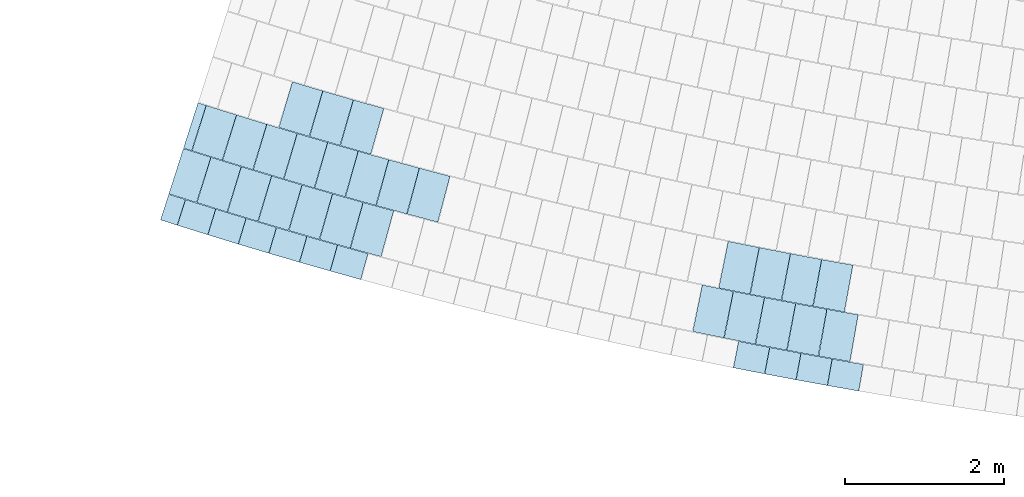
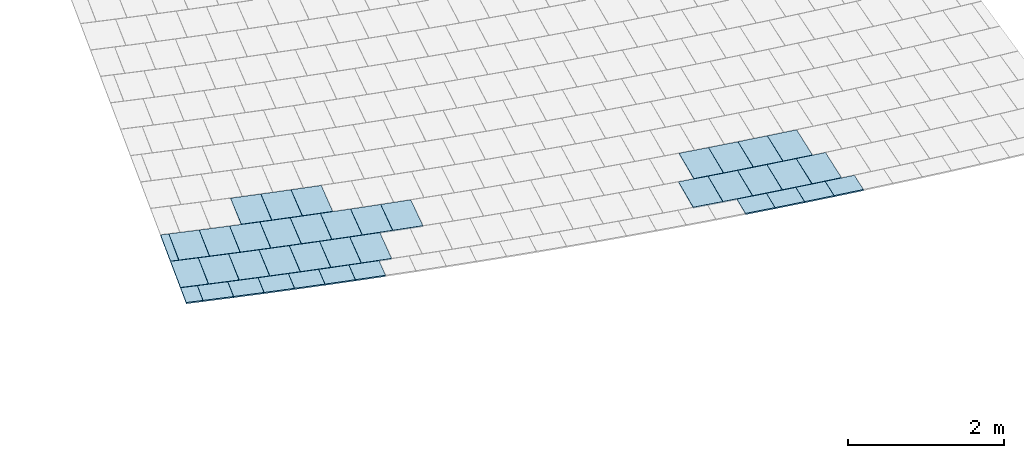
# One storey, part 16 of 438: 39 slabs.
"""IFC2X3 building model written with IfcOpenShell, lengths in millimetres."""

from ifc_helpers import new_model, entity, si_unit, converted_unit, derived_unit, direction, frame, frame_2d, origin, place, context, subcontext, project, spatial, polyline, rectangle, outline, extrude, material, layer, layer_set, layer_usage, type_object, element, save


model = new_model("IFC2X3")

# Units and contexts
model_context = context("Model", 3, precision=0.01, world=origin(), true_north=direction((6.123031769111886e-17, 1.0)))
body_context = subcontext(model_context, "Body", "Model", "MODEL_VIEW")
ifc_project = project(units=[si_unit("LENGTHUNIT", "METRE", prefix="MILLI"), si_unit("AREAUNIT", "SQUARE_METRE"), si_unit("VOLUMEUNIT", "CUBIC_METRE"), converted_unit("PLANEANGLEUNIT", "DEGREE", entity("IfcRatioMeasure", 0.017453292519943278), si_unit("PLANEANGLEUNIT", "RADIAN"), dimensions=[0, 0, 0, 0, 0, 0, 0]), si_unit("MASSUNIT", "GRAM", prefix="KILO"), derived_unit("MASSDENSITYUNIT", [(si_unit("MASSUNIT", "GRAM", prefix="KILO"), 1), (si_unit("LENGTHUNIT", "METRE"), -3)]), derived_unit("MOMENTOFINERTIAUNIT", [(si_unit("LENGTHUNIT", "METRE"), 4)]), si_unit("TIMEUNIT", "SECOND"), si_unit("FREQUENCYUNIT", "HERTZ"), si_unit("THERMODYNAMICTEMPERATUREUNIT", "DEGREE_CELSIUS"), derived_unit("THERMALTRANSMITTANCEUNIT", [(si_unit("MASSUNIT", "GRAM", prefix="KILO"), 1), (si_unit("THERMODYNAMICTEMPERATUREUNIT", "KELVIN"), -1), (si_unit("TIMEUNIT", "SECOND"), -3)]), derived_unit("THERMALCONDUCTANCEUNIT", [(si_unit("MASSUNIT", "GRAM", prefix="KILO"), 1), (si_unit("LENGTHUNIT", "METRE"), 1), (si_unit("THERMODYNAMICTEMPERATUREUNIT", "KELVIN"), -1), (si_unit("TIMEUNIT", "SECOND"), -3)]), derived_unit("VOLUMETRICFLOWRATEUNIT", [(si_unit("LENGTHUNIT", "METRE"), 3), (si_unit("TIMEUNIT", "SECOND"), -1)]), derived_unit("MASSFLOWRATEUNIT", [(si_unit("MASSUNIT", "GRAM", prefix="KILO"), 1), (si_unit("TIMEUNIT", "SECOND"), -1)]), derived_unit("ROTATIONALFREQUENCYUNIT", [(si_unit("TIMEUNIT", "SECOND"), -1)]), si_unit("ELECTRICCURRENTUNIT", "AMPERE"), si_unit("ELECTRICVOLTAGEUNIT", "VOLT"), si_unit("POWERUNIT", "WATT"), converted_unit("FORCEUNIT", "KIP", entity("IfcRatioMeasure", 2.088543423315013e-05), si_unit("FORCEUNIT", "NEWTON"), dimensions=[1, 1, -2, 0, 0, 0, 0]), si_unit("ILLUMINANCEUNIT", "LUX"), si_unit("LUMINOUSFLUXUNIT", "LUMEN"), si_unit("LUMINOUSINTENSITYUNIT", "CANDELA"), derived_unit("USERDEFINED", [(si_unit("MASSUNIT", "GRAM", prefix="KILO"), -1), (si_unit("LENGTHUNIT", "METRE"), -2), (si_unit("TIMEUNIT", "SECOND"), 3), (si_unit("LUMINOUSFLUXUNIT", "LUMEN"), 1)]), derived_unit("USERDEFINED", [(si_unit("MASSUNIT", "GRAM", prefix="KILO"), 1), (si_unit("LENGTHUNIT", "METRE"), 3), (si_unit("TIMEUNIT", "SECOND"), -3), (si_unit("ELECTRICCURRENTUNIT", "AMPERE"), -2)]), derived_unit("USERDEFINED", [(si_unit("LENGTHUNIT", "METRE"), 2), (si_unit("TIMEUNIT", "SECOND"), -2)]), derived_unit("SOUNDPOWERUNIT", [(si_unit("MASSUNIT", "GRAM", prefix="KILO"), 1), (si_unit("LENGTHUNIT", "METRE"), 2), (si_unit("TIMEUNIT", "SECOND"), -3)]), derived_unit("SOUNDPRESSUREUNIT", [(si_unit("MASSUNIT", "GRAM", prefix="KILO"), 1), (si_unit("LENGTHUNIT", "METRE"), -1), (si_unit("TIMEUNIT", "SECOND"), -2)]), derived_unit("LINEARVELOCITYUNIT", [(si_unit("LENGTHUNIT", "METRE"), 1), (si_unit("TIMEUNIT", "SECOND"), -1)]), si_unit("PRESSUREUNIT", "PASCAL"), derived_unit("USERDEFINED", [(si_unit("LENGTHUNIT", "METRE"), -2), (si_unit("MASSUNIT", "GRAM", prefix="KILO"), 1), (si_unit("TIMEUNIT", "SECOND"), -2)]), derived_unit("LINEARFORCEUNIT", [(si_unit("MASSUNIT", "GRAM", prefix="KILO"), 1), (si_unit("LENGTHUNIT", "METRE"), 1), (si_unit("TIMEUNIT", "SECOND"), -2), (si_unit("LENGTHUNIT", "METRE"), -1)]), derived_unit("PLANARFORCEUNIT", [(si_unit("MASSUNIT", "GRAM", prefix="KILO"), 1), (si_unit("LENGTHUNIT", "METRE"), 1), (si_unit("TIMEUNIT", "SECOND"), -2), (si_unit("LENGTHUNIT", "METRE"), -2)]), derived_unit("SPECIFICHEATCAPACITYUNIT", [(si_unit("LENGTHUNIT", "METRE"), 2), (si_unit("TIMEUNIT", "SECOND"), -2), (si_unit("THERMODYNAMICTEMPERATUREUNIT", "KELVIN"), -1)]), derived_unit("VAPORPERMEABILITYUNIT", [(si_unit("TIMEUNIT", "SECOND"), 1), (si_unit("LENGTHUNIT", "METRE"), -1)]), derived_unit("DYNAMICVISCOSITYUNIT", [(si_unit("MASSUNIT", "GRAM", prefix="KILO"), 1), (si_unit("LENGTHUNIT", "METRE"), -1), (si_unit("TIMEUNIT", "SECOND"), -1)]), derived_unit("THERMALEXPANSIONCOEFFICIENTUNIT", [(si_unit("THERMODYNAMICTEMPERATUREUNIT", "KELVIN"), -1)])], contexts=[model_context])

# Site, building, storey
site_placement = place(None, frame((0.0, 0.0, 0.0), z_axis=(0.0, 0.0, 1.0), x_axis=(0.8191520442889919, 0.5735764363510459, 0.0)))
site = spatial("IfcSite", under=ifc_project, at=site_placement, Name="Default", CompositionType="ELEMENT")
building_placement = place(site_placement, origin())
building = spatial("IfcBuilding", under=site, at=building_placement, CompositionType="ELEMENT")
storey_placement = place(building_placement, origin())
storey = spatial("IfcBuildingStorey", under=building, at=storey_placement, Name="PLAN", CompositionType="ELEMENT", Elevation=0.0)

# Slabs
ifc_material = material(Name="Paint-01")
ifc_layer = layer(ifc_material, 20.00000000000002)
ifc_layer_set = layer_set([ifc_layer], Name="Floor:Slab-179:1000")
ifc_layer_usage = layer_usage(ifc_layer_set, "AXIS3", "POSITIVE", 0.0)
slab_type = type_object("IfcSlabType", Name="Floor:Slab-179:1000", PredefinedType="FLOOR", material=ifc_layer_set)
slab_1_placement = place(storey_placement, origin())
element("IfcSlab", 1, at=slab_1_placement, inside=storey, type_object=slab_type, material=ifc_layer_usage, Name="Floor:Slab-179:1000", ObjectType="Floor:Slab-179:1000", PredefinedType="FLOOR", context=body_context, shape_type="SweptSolid", body=[
    extrude(outline(polyline([(-200.000001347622, -299.9999986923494), (200.00000453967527, -299.9999986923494), (200.00000134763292, 299.99999869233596), (-200.00000453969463, 299.99999869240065), (-200.000001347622, -299.9999986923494)])), frame((-89695.173439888, -108101.68065019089, 520.0), z_axis=(0.0, 0.0, -1.0), x_axis=(0.6309567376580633, -0.7758180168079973, 0.0)), (0.0, 0.0, 1.0), 20.000000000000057),
])
slab_2_placement = place(storey_placement, origin())
element("IfcSlab", 2, at=slab_2_placement, inside=storey, type_object=slab_type, material=ifc_layer_usage, Name="Floor:Slab-179:1000", ObjectType="Floor:Slab-179:1000", PredefinedType="FLOOR", context=body_context, shape_type="SweptSolid", body=[
    extrude(outline(polyline([(-200.0000013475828, -299.9999986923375), (200.00000453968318, -299.9999986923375), (200.0000013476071, 299.9999986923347), (-200.0000045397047, 299.99999869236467), (-200.0000013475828, -299.9999986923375)])), frame((-90198.37641179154, -107474.90255385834, 520.0), z_axis=(0.0, 0.0, -1.0), x_axis=(0.6211079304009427, -0.7837250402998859, 0.0)), (0.0, 0.0, 1.0), 20.000000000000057),
])
slab_3_placement = place(storey_placement, origin())
element("IfcSlab", 3, at=slab_3_placement, inside=storey, type_object=slab_type, material=ifc_layer_usage, Name="Floor:Slab-179:1000", ObjectType="Floor:Slab-179:1000", PredefinedType="FLOOR", context=body_context, shape_type="SweptSolid", body=[
    extrude(outline(polyline([(-200.00000134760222, -299.99999869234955), (200.0000045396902, -299.9999986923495), (200.00000134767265, 299.9999986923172), (-200.00000453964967, 299.99999869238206), (-200.00000134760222, -299.99999869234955)])), frame((-89947.76447131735, -107789.08604941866, 520.0), z_axis=(0.0, 0.0, -1.0), x_axis=(0.6260448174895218, -0.7797870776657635, 0.0)), (0.0, 0.0, 1.0), 20.000000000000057),
])
slab_4_placement = place(storey_placement, origin())
element("IfcSlab", 4, at=slab_4_placement, inside=storey, type_object=slab_type, material=ifc_layer_usage, Name="Floor:Slab-179:1000", ObjectType="Floor:Slab-179:1000", PredefinedType="FLOOR", context=body_context, shape_type="SweptSolid", body=[
    extrude(outline(polyline([(-200.00000134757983, -299.99999869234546), (200.00000453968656, -299.9999986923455), (200.00000134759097, 299.9999986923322), (-200.00000453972, 299.9999986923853), (-200.00000134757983, -299.99999869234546)])), frame((-89501.10370635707, -109285.79751246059, 520.0), z_axis=(0.0, 0.0, -1.0), x_axis=(0.6434462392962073, -0.7654913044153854, 0.0)), (0.0, 0.0, 1.0), 20.000000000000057),
])
slab_5_placement = place(storey_placement, origin())
element("IfcSlab", 5, at=slab_5_placement, inside=storey, type_object=slab_type, material=ifc_layer_usage, Name="Floor:Slab-179:1000", ObjectType="Floor:Slab-179:1000", PredefinedType="FLOOR", context=body_context, shape_type="SweptSolid", body=[
    extrude(outline(polyline([(-200.00000134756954, -299.9999986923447), (200.0000045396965, -299.9999986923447), (200.00000134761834, 299.99999869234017), (-200.00000453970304, 299.99999869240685), (-200.00000134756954, -299.9999986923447)])), frame((-89758.72500339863, -108977.35869517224, 520.0), z_axis=(0.0, 0.0, -1.0), x_axis=(0.6386452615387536, -0.7695012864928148, 0.0)), (0.0, 0.0, 1.0), 20.000000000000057),
])
slab_6_placement = place(storey_placement, origin())
element("IfcSlab", 6, at=slab_6_placement, inside=storey, type_object=slab_type, material=ifc_layer_usage, Name="Floor:Slab-179:1000", ObjectType="Floor:Slab-179:1000", PredefinedType="FLOOR", context=body_context, shape_type="SweptSolid", body=[
    extrude(outline(polyline([(-200.00000134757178, -299.999998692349), (200.0000045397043, -299.9999986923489), (200.00000134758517, 299.99999869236), (-200.00000453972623, 299.99999869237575), (-200.00000134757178, -299.999998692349)])), frame((-90014.41187832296, -108667.31441012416, 520.0), z_axis=(0.0, 0.0, -1.0), x_axis=(0.6338192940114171, -0.7734811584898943, 0.0)), (0.0, 0.0, 1.0), 20.000000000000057),
])
slab_7_placement = place(storey_placement, origin())
element("IfcSlab", 7, at=slab_7_placement, inside=storey, type_object=slab_type, material=ifc_layer_usage, Name="Floor:Slab-179:1000", ObjectType="Floor:Slab-179:1000", PredefinedType="FLOOR", context=body_context, shape_type="SweptSolid", body=[
    extrude(outline(polyline([(-200.000001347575, -299.9999986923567), (200.00000453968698, -299.99999869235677), (200.00000134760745, 299.9999986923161), (-200.00000453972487, 299.99999869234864), (-200.000001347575, -299.9999986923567)])), frame((-90519.94241846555, -108042.45802641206, 520.0), z_axis=(0.0, 0.0, -1.0), x_axis=(0.6240931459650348, -0.7813499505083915, 0.0)), (0.0, 0.0, 1.0), 20.000000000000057),
])
slab_8_placement = place(storey_placement, origin())
element("IfcSlab", 8, at=slab_8_placement, inside=storey, type_object=slab_type, material=ifc_layer_usage, Name="Floor:Slab-179:1000", ObjectType="Floor:Slab-179:1000", PredefinedType="FLOOR", context=body_context, shape_type="SweptSolid", body=[
    extrude(outline(polyline([(-200.00000134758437, -299.9999986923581), (200.00000453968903, -299.9999986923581), (200.00000134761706, 299.9999986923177), (-200.00000453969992, 299.99999869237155), (-200.00000134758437, -299.9999986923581)])), frame((-90268.15432627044, -108355.67678914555, 520.0), z_axis=(0.0, 0.0, -1.0), x_axis=(0.6289685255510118, -0.7774307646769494, 0.0)), (0.0, 0.0, 1.0), 20.000000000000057),
])
slab_9_placement = place(storey_placement, origin())
element("IfcSlab", 9, at=slab_9_placement, inside=storey, type_object=slab_type, material=ifc_layer_usage, Name="Floor:Slab-179:1000", ObjectType="Floor:Slab-179:1000", PredefinedType="FLOOR", context=body_context, shape_type="SweptSolid", body=[
    extrude(outline(polyline([(-200.00000134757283, -299.9999986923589), (200.00000453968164, -299.9999986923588), (200.00000134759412, 299.9999986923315), (-200.00000453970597, 299.9999986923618), (-200.00000134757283, -299.9999986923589)])), frame((-91017.61620324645, -107411.32616124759, 520.0), z_axis=(0.0, 0.0, -1.0), x_axis=(0.6142693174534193, -0.7890964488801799, 0.0)), (0.0, 0.0, 1.0), 20.000000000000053),
])
slab_10_placement = place(storey_placement, origin())
element("IfcSlab", 10, at=slab_10_placement, inside=storey, type_object=slab_type, material=ifc_layer_usage, Name="Floor:Slab-179:1000", ObjectType="Floor:Slab-179:1000", PredefinedType="FLOOR", context=body_context, shape_type="SweptSolid", body=[
    extrude(outline(polyline([(-200.0000013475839, -299.99999869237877), (200.00000453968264, -299.9999986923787), (200.0000013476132, 299.99999869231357), (-200.00000453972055, 299.99999869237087), (-200.0000013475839, -299.99999869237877)])), frame((-90769.76630260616, -107727.67037796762, 520.0), z_axis=(0.0, 0.0, -1.0), x_axis=(0.6191933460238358, -0.7852385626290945, 0.0)), (0.0, 0.0, 1.0), 20.000000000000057),
])
slab_11_placement = place(storey_placement, origin())
element("IfcSlab", 11, at=slab_11_placement, inside=storey, type_object=slab_type, material=ifc_layer_usage, Name="Floor:Slab-179:1000", ObjectType="Floor:Slab-179:1000", PredefinedType="FLOOR", context=body_context, shape_type="SweptSolid", body=[
    extrude(outline(polyline([(-54.47639367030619, -299.99999869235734), (54.04723241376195, -299.99999869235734), (54.04722922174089, 299.9999986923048), (-53.618067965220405, 299.9999986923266), (-54.47639367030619, -299.99999869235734)])), frame((-91419.14887644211, -106890.30100781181, 520.0), z_axis=(0.0, 0.0, -1.0), x_axis=(0.6043493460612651, -0.7967194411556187, 0.0)), (0.0, 0.0, 1.0), 20.000000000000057),
])
slab_12_placement = place(storey_placement, origin())
element("IfcSlab", 12, at=slab_12_placement, inside=storey, type_object=slab_type, material=ifc_layer_usage, Name="Floor:Slab-179:1000", ObjectType="Floor:Slab-179:1000", PredefinedType="FLOOR", context=body_context, shape_type="SweptSolid", body=[
    extrude(outline(polyline([(-200.0000013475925, -299.99999869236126), (200.0000045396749, -299.9999986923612), (200.00000134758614, 299.99999869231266), (-200.00000453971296, 299.9999986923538), (-200.0000013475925, -299.99999869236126)])), frame((-91263.48242218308, -107093.4377545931, 520.0), z_axis=(0.0, 0.0, -1.0), x_axis=(0.6093212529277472, -0.7929234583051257, 0.0)), (0.0, 0.0, 1.0), 20.000000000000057),
])
slab_13_placement = place(storey_placement, origin())
element("IfcSlab", 13, at=slab_13_placement, inside=storey, type_object=slab_type, material=ifc_layer_usage, Name="Floor:Slab-179:1000", ObjectType="Floor:Slab-179:1000", PredefinedType="FLOOR", context=body_context, shape_type="SweptSolid", body=[
    extrude(outline(polyline([(-299.99999762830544, -200.00000294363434), (300.0, -200.00000294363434), (299.99999762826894, 200.00000294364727), (-300.0, 200.000002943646), (-299.99999762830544, -200.00000294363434)])), frame((-86542.53397466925, -112569.25771188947, 520.0), z_axis=(0.0, 0.0, -1.0), x_axis=(-0.7194399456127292, -0.6945546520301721, 0.0)), (0.0, 0.0, 1.0), 19.99999999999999),
])
slab_14_placement = place(storey_placement, origin())
element("IfcSlab", 14, at=slab_14_placement, inside=storey, type_object=slab_type, material=ifc_layer_usage, Name="Floor:Slab-179:1000", ObjectType="Floor:Slab-179:1000", PredefinedType="FLOOR", context=body_context, shape_type="SweptSolid", body=[
    extrude(outline(polyline([(-299.99999762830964, -200.00000294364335), (300.0, -200.00000294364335), (299.99999762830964, 200.00000294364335), (-300.0, 200.00000294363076), (-299.99999762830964, -200.00000294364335)])), frame((-86820.75223172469, -112279.26143925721, 520.0), z_axis=(0.0, 0.0, -1.0), x_axis=(-0.72377052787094, -0.6900407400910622, 0.0)), (0.0, 0.0, 1.0), 20.000000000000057),
])
slab_15_placement = place(storey_placement, origin())
element("IfcSlab", 15, at=slab_15_placement, inside=storey, type_object=slab_type, material=ifc_layer_usage, Name="Floor:Slab-179:1000", ObjectType="Floor:Slab-179:1000", PredefinedType="FLOOR", context=body_context, shape_type="SweptSolid", body=[
    extrude(outline(polyline([(-299.9999976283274, -200.0000029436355), (300.0, -200.0000029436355), (299.99999762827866, 200.00000294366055), (-300.0, 200.0000029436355), (-299.9999976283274, -200.0000029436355)])), frame((-86262.5071429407, -112857.50796811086, 520.0), z_axis=(0.0, 0.0, -1.0), x_axis=(-0.7150812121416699, -0.6990413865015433, 0.0)), (0.0, 0.0, 1.0), 20.000000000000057),
])
slab_16_placement = place(storey_placement, origin())
element("IfcSlab", 16, at=slab_16_placement, inside=storey, type_object=slab_type, material=ifc_layer_usage, Name="Floor:Slab-179:1000", ObjectType="Floor:Slab-179:1000", PredefinedType="FLOOR", context=body_context, shape_type="SweptSolid", body=[
    extrude(outline(polyline([(-299.9999976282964, -200.00000294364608), (300.0, -200.00000294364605), (299.9999976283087, 200.00000294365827), (-300.0, 200.00000294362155), (-299.9999976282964, -200.00000294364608)])), frame((-85980.68269380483, -113144.00092887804, 520.0), z_axis=(0.0, 0.0, -1.0), x_axis=(-0.7106944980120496, -0.7035007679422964, 0.0)), (0.0, 0.0, 1.0), 19.99999999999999),
])
slab_17_placement = place(storey_placement, origin())
element("IfcSlab", 17, at=slab_17_placement, inside=storey, type_object=slab_type, material=ifc_layer_usage, Name="Floor:Slab-179:1000", ObjectType="Floor:Slab-179:1000", PredefinedType="FLOOR", context=body_context, shape_type="SweptSolid", body=[
    extrude(outline(polyline([(-200.00000134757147, -299.999998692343), (200.00000453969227, -299.999998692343), (200.00000134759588, 299.9999986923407), (-200.0000045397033, 299.99999869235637), (-200.00000134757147, -299.999998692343)])), frame((-90332.99761945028, -109232.38652519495, 520.0), z_axis=(0.0, 0.0, -1.0), x_axis=(0.6366197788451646, -0.7711778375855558, 0.0)), (0.0, 0.0, 1.0), 20.000000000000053),
])
slab_18_placement = place(storey_placement, origin())
element("IfcSlab", 18, at=slab_18_placement, inside=storey, type_object=slab_type, material=ifc_layer_usage, Name="Floor:Slab-179:1000", ObjectType="Floor:Slab-179:1000", PredefinedType="FLOOR", context=body_context, shape_type="SweptSolid", body=[
    extrude(outline(polyline([(-200.00000134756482, -299.9999986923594), (200.00000453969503, -299.99999869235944), (200.0000013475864, 299.99999869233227), (-200.00000453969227, 299.99999869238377), (-200.00000134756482, -299.9999986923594)])), frame((-91091.80367080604, -108295.59501314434, 520.0), z_axis=(0.0, 0.0, -1.0), x_axis=(0.6221742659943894, -0.7828787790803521, 0.0)), (0.0, 0.0, 1.0), 20.000000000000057),
])
slab_19_placement = place(storey_placement, origin())
element("IfcSlab", 19, at=slab_19_placement, inside=storey, type_object=slab_type, material=ifc_layer_usage, Name="Floor:Slab-179:1000", ObjectType="Floor:Slab-179:1000", PredefinedType="FLOOR", context=body_context, shape_type="SweptSolid", body=[
    extrude(outline(polyline([(-200.0000013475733, -299.9999986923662), (200.00000453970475, -299.9999986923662), (200.00000134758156, 299.99999869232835), (-200.00000453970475, 299.9999986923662), (-200.0000013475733, -299.9999986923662)])), frame((-90840.80496525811, -108609.42423335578, 520.0), z_axis=(0.0, 0.0, -1.0), x_axis=(0.6270135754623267, -0.779008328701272, 0.0)), (0.0, 0.0, 1.0), 20.000000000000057),
])
slab_20_placement = place(storey_placement, origin())
element("IfcSlab", 20, at=slab_20_placement, inside=storey, type_object=slab_type, material=ifc_layer_usage, Name="Floor:Slab-179:1000", ObjectType="Floor:Slab-179:1000", PredefinedType="FLOOR", context=body_context, shape_type="SweptSolid", body=[
    extrude(outline(polyline([(-200.00000134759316, -299.9999986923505), (200.00000453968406, -299.99999869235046), (200.00000134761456, 299.9999986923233), (-200.00000453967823, 299.9999986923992), (-200.00000134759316, -299.9999986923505)])), frame((-91340.8528557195, -107980.21645785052, 520.0), z_axis=(0.0, 0.0, -1.0), x_axis=(0.6173110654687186, -0.7867191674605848, 0.0)), (0.0, 0.0, 1.0), 19.999999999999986),
])
slab_21_placement = place(storey_placement, origin())
element("IfcSlab", 21, at=slab_21_placement, inside=storey, type_object=slab_type, material=ifc_layer_usage, Name="Floor:Slab-179:1000", ObjectType="Floor:Slab-179:1000", PredefinedType="FLOOR", context=body_context, shape_type="SweptSolid", body=[
    extrude(outline(polyline([(-200.00000134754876, -299.9999986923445), (200.00000453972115, -299.99999869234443), (200.0000013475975, 299.99999869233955), (-200.0000045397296, 299.99999869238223), (-200.00000134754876, -299.9999986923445)])), frame((-90587.86637725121, -108921.69206766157, 520.0), z_axis=(0.0, 0.0, -1.0), x_axis=(0.6318288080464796, -0.7751079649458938, 0.0)), (0.0, 0.0, 1.0), 20.000000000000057),
])
slab_22_placement = place(storey_placement, origin())
element("IfcSlab", 22, at=slab_22_placement, inside=storey, type_object=slab_type, material=ifc_layer_usage, Name="Floor:Slab-179:1000", ObjectType="Floor:Slab-179:1000", PredefinedType="FLOOR", context=body_context, shape_type="SweptSolid", body=[
    extrude(outline(polyline([(-200.00000134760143, -299.99999869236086), (200.00000453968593, -299.99999869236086), (200.00000134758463, 299.99999869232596), (-200.00000453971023, 299.99999869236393), (-200.00000134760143, -299.99999869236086)])), frame((-91587.94295668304, -107663.30067779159, 520.0), z_axis=(0.0, 0.0, -1.0), x_axis=(0.6124241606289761, -0.7905293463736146, 0.0)), (0.0, 0.0, 1.0), 19.999999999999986),
])
slab_23_placement = place(storey_placement, origin())
element("IfcSlab", 23, at=slab_23_placement, inside=storey, type_object=slab_type, material=ifc_layer_usage, Name="Floor:Slab-179:1000", ObjectType="Floor:Slab-179:1000", PredefinedType="FLOOR", context=body_context, shape_type="SweptSolid", body=[
    extrude(outline(polyline([(-181.83036841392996, -299.9999986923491), (182.59454611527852, -299.99999869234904), (182.59454292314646, 299.9999986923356), (-183.35872062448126, 299.9999986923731), (-181.83036841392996, -299.9999986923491)])), frame((-91822.49043048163, -107358.68515753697, 520.0), z_axis=(0.0, 0.0, -1.0), x_axis=(0.6075137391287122, -0.7943091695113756, 0.0)), (0.0, 0.0, 1.0), 19.999999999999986),
])
slab_24_placement = place(storey_placement, origin())
element("IfcSlab", 24, at=slab_24_placement, inside=storey, type_object=slab_type, material=ifc_layer_usage, Name="Floor:Slab-179:1000", ObjectType="Floor:Slab-179:1000", PredefinedType="FLOOR", context=body_context, shape_type="SweptSolid", body=[
    extrude(outline(polyline([(-299.999997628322, -200.00000294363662), (300.0, -200.00000294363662), (299.99999762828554, 200.00000294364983), (-300.0, 200.00000294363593), (-299.999997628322, -200.00000294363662)])), frame((-87404.90136982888, -112542.81464813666, 520.0), z_axis=(0.0, 0.0, -1.0), x_axis=(-0.7260260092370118, -0.6876672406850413, 0.0)), (0.0, 0.0, 1.0), 20.000000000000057),
])
slab_25_placement = place(storey_placement, origin())
element("IfcSlab", 25, at=slab_25_placement, inside=storey, type_object=slab_type, material=ifc_layer_usage, Name="Floor:Slab-179:1000", ObjectType="Floor:Slab-179:1000", PredefinedType="FLOOR", context=body_context, shape_type="SweptSolid", body=[
    extrude(outline(polyline([(-299.9999976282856, -200.00000294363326), (300.0, -200.00000294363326), (299.9999976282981, 200.00000294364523), (-300.0, 200.00000294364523), (-299.9999976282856, -200.00000294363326)])), frame((-87127.6547594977, -112833.71574250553, 520.0), z_axis=(0.0, 0.0, -1.0), x_axis=(-0.7217508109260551, -0.6921529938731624, 0.0)), (0.0, 0.0, 1.0), 20.000000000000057),
])
slab_26_placement = place(storey_placement, origin())
element("IfcSlab", 26, at=slab_26_placement, inside=storey, type_object=slab_type, material=ifc_layer_usage, Name="Floor:Slab-179:1000", ObjectType="Floor:Slab-179:1000", PredefinedType="FLOOR", context=body_context, shape_type="SweptSolid", body=[
    extrude(outline(polyline([(-299.9999976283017, -200.00000294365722), (300.0, -200.0000029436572), (299.99999762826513, 200.00000294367), (-300.0, 200.00000294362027), (-299.9999976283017, -200.00000294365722)])), frame((-86848.61084908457, -113122.89324112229, 520.0), z_axis=(0.0, 0.0, -1.0), x_axis=(-0.7174478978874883, -0.6966121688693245, 0.0)), (0.0, 0.0, 1.0), 19.99999999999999),
])
slab_27_placement = place(storey_placement, origin())
element("IfcSlab", 27, at=slab_27_placement, inside=storey, type_object=slab_type, material=ifc_layer_usage, Name="Floor:Slab-179:1000", ObjectType="Floor:Slab-179:1000", PredefinedType="FLOOR", context=body_context, shape_type="SweptSolid", body=[
    extrude(rectangle(XDim=599.9983544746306, YDim=399.9989106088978, at=frame_2d((0.0, 1.2249756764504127e-11), x_axis=(1.0, 0.0))), frame((-86284.34668392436, -113696.1985745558, 520.0), z_axis=(0.0, 0.0, -1.0), x_axis=(-0.7071067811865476, -0.7071067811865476, 0.0)), (0.0, 0.0, 1.0), 19.999999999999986),
])
slab_28_placement = place(storey_placement, origin())
element("IfcSlab", 28, at=slab_28_placement, inside=storey, type_object=slab_type, material=ifc_layer_usage, Name="Floor:Slab-179:1000", ObjectType="Floor:Slab-179:1000", PredefinedType="FLOOR", context=body_context, shape_type="SweptSolid", body=[
    extrude(outline(polyline([(-299.9999976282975, -200.00000294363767), (300.0, -200.00000294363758), (299.9999976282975, 200.00000294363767), (-300.0, 200.00000294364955), (-299.9999976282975, -200.00000294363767)])), frame((-86567.78035368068, -113410.3360397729, 520.0), z_axis=(0.0, 0.0, -1.0), x_axis=(-0.7131174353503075, -0.7010445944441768, 0.0)), (0.0, 0.0, 1.0), 20.000000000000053),
])
slab_29_placement = place(storey_placement, origin())
element("IfcSlab", 29, at=slab_29_placement, inside=storey, type_object=slab_type, material=ifc_layer_usage, Name="Floor:Slab-179:1000", ObjectType="Floor:Slab-179:1000", PredefinedType="FLOOR", context=body_context, shape_type="SweptSolid", body=[
    extrude(outline(polyline([(-200.0000020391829, -169.99999869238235), (200.00000384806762, -169.99999869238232), (200.00000203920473, 169.9999986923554), (-200.0000038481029, 169.99999869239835), (-200.0000020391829, -169.99999869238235)])), frame((-91060.01488238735, -109093.93179829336, 520.0), z_axis=(0.0, 0.0, -1.0), x_axis=(0.6298712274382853, -0.7766995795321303, 0.0)), (0.0, 0.0, 1.0), 20.000000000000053),
])
slab_30_placement = place(storey_placement, origin())
element("IfcSlab", 30, at=slab_30_placement, inside=storey, type_object=slab_type, material=ifc_layer_usage, Name="Floor:Slab-179:1000", ObjectType="Floor:Slab-179:1000", PredefinedType="FLOOR", context=body_context, shape_type="SweptSolid", body=[
    extrude(outline(polyline([(-200.00000203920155, -169.99999869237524), (200.00000384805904, -169.9999986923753), (200.0000020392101, 169.99999869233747), (-200.00000384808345, 169.99999869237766), (-200.00000203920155, -169.99999869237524)])), frame((-90806.45525161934, -109404.64392267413, 520.0), z_axis=(0.0, 0.0, -1.0), x_axis=(0.6346276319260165, -0.7728180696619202, 0.0)), (0.0, 0.0, 1.0), 20.000000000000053),
])
slab_31_placement = place(storey_placement, origin())
element("IfcSlab", 31, at=slab_31_placement, inside=storey, type_object=slab_type, material=ifc_layer_usage, Name="Floor:Slab-179:1000", ObjectType="Floor:Slab-179:1000", PredefinedType="FLOOR", context=body_context, shape_type="SweptSolid", body=[
    extrude(outline(polyline([(-200.00000203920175, -169.9999986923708), (200.00000384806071, -169.99999869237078), (200.0000020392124, 169.99999869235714), (-200.00000384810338, 169.99999869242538), (-200.00000203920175, -169.9999986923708)])), frame((-91809.18219195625, -108152.53784930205, 520.0), z_axis=(0.0, 0.0, -1.0), x_axis=(0.6154602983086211, -0.788167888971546, 0.0)), (0.0, 0.0, 1.0), 19.999999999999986),
])
slab_32_placement = place(storey_placement, origin())
element("IfcSlab", 32, at=slab_32_placement, inside=storey, type_object=slab_type, material=ifc_layer_usage, Name="Floor:Slab-179:1000", ObjectType="Floor:Slab-179:1000", PredefinedType="FLOOR", context=body_context, shape_type="SweptSolid", body=[
    extrude(outline(polyline([(-200.00000203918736, -169.99999869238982), (200.0000038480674, -169.99999869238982), (200.00000203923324, 169.99999869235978), (-200.00000384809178, 169.99999869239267), (-200.00000203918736, -169.99999869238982)])), frame((-91561.38780080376, -108467.86696357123, 520.0), z_axis=(0.0, 0.0, -1.0), x_axis=(0.6202873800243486, -0.7843746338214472, 0.0)), (0.0, 0.0, 1.0), 20.000000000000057),
])
slab_33_placement = place(storey_placement, origin())
element("IfcSlab", 33, at=slab_33_placement, inside=storey, type_object=slab_type, material=ifc_layer_usage, Name="Floor:Slab-179:1000", ObjectType="Floor:Slab-179:1000", PredefinedType="FLOOR", context=body_context, shape_type="SweptSolid", body=[
    extrude(outline(polyline([(-110.13683839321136, -169.99999869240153), (110.18987581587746, -169.99999869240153), (110.18987400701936, 169.99999869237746), (-110.24291142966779, 169.9999986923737), (-110.13683839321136, -169.99999869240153)])), frame((-92244.53884912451, -107588.80443762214, 520.0), z_axis=(0.0, 0.0, -1.0), x_axis=(0.6057367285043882, -0.7956651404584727, 0.0)), (0.0, 0.0, 1.0), 20.000000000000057),
])
slab_34_placement = place(storey_placement, origin())
element("IfcSlab", 34, at=slab_34_placement, inside=storey, type_object=slab_type, material=ifc_layer_usage, Name="Floor:Slab-179:1000", ObjectType="Floor:Slab-179:1000", PredefinedType="FLOOR", context=body_context, shape_type="SweptSolid", body=[
    extrude(outline(polyline([(-169.99999762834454, -200.00000294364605), (170.0, -200.00000294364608), (169.9999976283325, 200.00000294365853), (-170.0, 200.00000294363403), (-169.99999762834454, -200.00000294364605)])), frame((-87340.6070595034, -113297.53343397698, 520.0), z_axis=(0.0, 0.0, -1.0), x_axis=(-0.719762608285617, -0.6942202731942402, 0.0)), (0.0, 0.0, 1.0), 19.99999999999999),
])
slab_35_placement = place(storey_placement, origin())
element("IfcSlab", 35, at=slab_35_placement, inside=storey, type_object=slab_type, material=ifc_layer_usage, Name="Floor:Slab-179:1000", ObjectType="Floor:Slab-179:1000", PredefinedType="FLOOR", context=body_context, shape_type="SweptSolid", body=[
    extrude(outline(polyline([(-200.00000203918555, -169.99999869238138), (200.00000384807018, -169.99999869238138), (200.00000203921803, 169.99999869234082), (-200.000003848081, 169.99999869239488), (-200.00000203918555, -169.99999869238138)])), frame((-91311.66222693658, -108781.66888891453, 520.0), z_axis=(0.0, 0.0, -1.0), x_axis=(0.625091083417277, -0.7805518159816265, 0.0)), (0.0, 0.0, 1.0), 20.000000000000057),
])
slab_36_placement = place(storey_placement, origin())
element("IfcSlab", 36, at=slab_36_placement, inside=storey, type_object=slab_type, material=ifc_layer_usage, Name="Floor:Slab-179:1000", ObjectType="Floor:Slab-179:1000", PredefinedType="FLOOR", context=body_context, shape_type="SweptSolid", body=[
    extrude(outline(polyline([(-200.0000020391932, -169.99999869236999), (200.0000038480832, -169.99999869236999), (200.0000020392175, 169.9999986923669), (-200.00000384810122, 169.99999869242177), (-200.0000020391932, -169.99999869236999)])), frame((-92055.03606114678, -107835.69343070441, 520.0), z_axis=(0.0, 0.0, -1.0), x_axis=(0.6106100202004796, -0.7919314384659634, 0.0)), (0.0, 0.0, 1.0), 20.000000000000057),
])
slab_37_placement = place(storey_placement, origin())
element("IfcSlab", 37, at=slab_37_placement, inside=storey, type_object=slab_type, material=ifc_layer_usage, Name="Floor:Slab-179:1000", ObjectType="Floor:Slab-179:1000", PredefinedType="FLOOR", context=body_context, shape_type="SweptSolid", body=[
    extrude(outline(polyline([(-169.99999762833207, -200.00000294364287), (170.0, -200.00000294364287), (169.99999762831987, 200.00000294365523), (-170.0, 200.00000294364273), (-169.99999762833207, -200.00000294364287)])), frame((-86780.2533320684, -113871.41119164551, 520.0), z_axis=(0.0, 0.0, -1.0), x_axis=(-0.7111846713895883, -0.7030052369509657, 0.0)), (0.0, 0.0, 1.0), 19.99999999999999),
])
slab_38_placement = place(storey_placement, origin())
element("IfcSlab", 38, at=slab_38_placement, inside=storey, type_object=slab_type, material=ifc_layer_usage, Name="Floor:Slab-179:1000", ObjectType="Floor:Slab-179:1000", PredefinedType="FLOOR", context=body_context, shape_type="SweptSolid", body=[
    extrude(outline(polyline([(-169.9999976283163, -200.0000029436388), (170.0, -200.00000294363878), (169.9999976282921, 200.00000294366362), (-170.0, 200.00000294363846), (-169.9999976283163, -200.0000029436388)])), frame((-87061.31098431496, -113585.33234463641, 520.0), z_axis=(0.0, 0.0, -1.0), x_axis=(-0.71548712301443, -0.6986259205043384, 0.0)), (0.0, 0.0, 1.0), 20.000000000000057),
])
slab_39_placement = place(storey_placement, origin())
element("IfcSlab", 39, at=slab_39_placement, inside=storey, type_object=slab_type, material=ifc_layer_usage, Name="Floor:Slab-179:1000", ObjectType="Floor:Slab-179:1000", PredefinedType="FLOOR", context=body_context, shape_type="SweptSolid", body=[
    extrude(rectangle(XDim=339.9999759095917, YDim=399.9999806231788, at=frame_2d((1.226396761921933e-11, -1.4210854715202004e-14), x_axis=(1.0, 0.0))), frame((-86497.53768368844, -114155.76673171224, 520.0), z_axis=(0.0, 0.0, -1.0), x_axis=(-0.707106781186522, -0.707106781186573, 0.0)), (0.0, 0.0, 1.0), 19.99999999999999),
])

save(model, "model.ifc")
